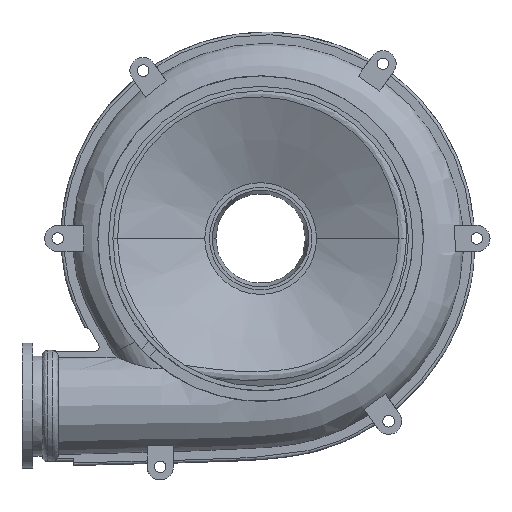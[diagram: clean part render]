
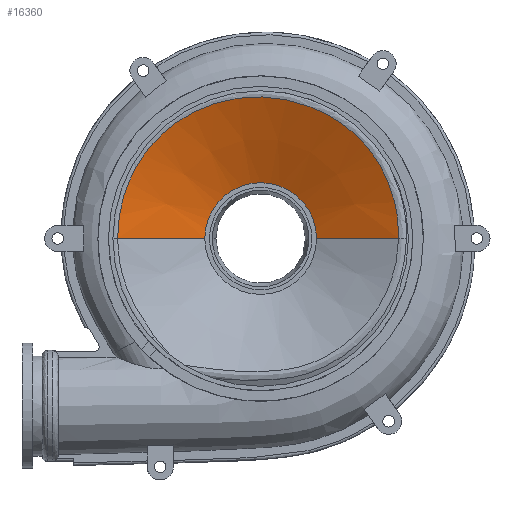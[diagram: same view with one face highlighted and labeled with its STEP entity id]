
A CAD part, front view. The second image highlights one B-rep face of the part: STEP entity #16360.
In plain terms, the highlighted conical face has half-angle 65.739 degrees and reference radius 19.01 mm.
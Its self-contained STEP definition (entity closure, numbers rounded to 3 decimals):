
#4383=CARTESIAN_POINT('',(-27.261,-4.302,
0.));
#4384=CARTESIAN_POINT('',(-27.263,-4.302,
-0.776));
#4385=CARTESIAN_POINT('',(-27.2,-4.3,
-2.253));
#4386=CARTESIAN_POINT('',(-26.968,-4.296,
-4.218));
#4387=CARTESIAN_POINT('',(-26.639,-4.292,
-5.979));
#4388=CARTESIAN_POINT('',(-26.239,-4.287,
-7.574));
#4389=CARTESIAN_POINT('',(-25.79,-4.281,
-9.014));
#4390=CARTESIAN_POINT('',(-25.317,-4.276,
-10.294));
#4391=CARTESIAN_POINT('',(-24.837,-4.271,
-11.427));
#4392=CARTESIAN_POINT('',(-24.359,-4.266,
-12.434));
#4393=CARTESIAN_POINT('',(-23.887,-4.262,
-13.333));
#4394=CARTESIAN_POINT('',(-23.422,-4.259,
-14.149));
#4395=CARTESIAN_POINT('',(-22.963,-4.256,
-14.891));
#4396=CARTESIAN_POINT('',(-22.501,-4.253,
-15.59));
#4397=CARTESIAN_POINT('',(-21.998,-4.252,
-16.299));
#4398=CARTESIAN_POINT('',(-21.453,-4.251,
-17.012));
#4399=CARTESIAN_POINT('',(-20.89,-4.251,
-17.698));
#4400=CARTESIAN_POINT('',(-20.309,-4.253,
-18.357));
#4401=CARTESIAN_POINT('',(-19.703,-4.255,
-19.));
#4402=CARTESIAN_POINT('',(-19.072,-4.257,
-19.625));
#4403=CARTESIAN_POINT('',(-18.421,-4.261,
-20.228));
#4404=CARTESIAN_POINT('',(-17.758,-4.264,
-20.802));
#4405=CARTESIAN_POINT('',(-17.056,-4.268,
-21.371));
#4406=CARTESIAN_POINT('',(-16.237,-4.273,
-21.988));
#4407=CARTESIAN_POINT('',(-15.268,-4.28,
-22.656));
#4408=CARTESIAN_POINT('',(-14.219,-4.287,
-23.309));
#4409=CARTESIAN_POINT('',(-13.128,-4.296,
-23.919));
#4410=CARTESIAN_POINT('',(-11.97,-4.306,
-24.495));
#4411=CARTESIAN_POINT('',(-10.729,-4.318,
-25.036));
#4412=CARTESIAN_POINT('',(-9.419,-4.331,
-25.528));
#4413=CARTESIAN_POINT('',(-8.055,-4.345,
-25.959));
#4414=CARTESIAN_POINT('',(-6.656,-4.359,
-26.32));
#4415=CARTESIAN_POINT('',(-5.237,-4.373,
-26.606));
#4416=CARTESIAN_POINT('',(-3.802,-4.388,
-26.816));
#4417=CARTESIAN_POINT('',(-2.34,-4.403,
-26.95));
#4418=CARTESIAN_POINT('',(-0.9,-4.417,
-27.003));
#4419=CARTESIAN_POINT('',(0.497,-4.432,
-26.982));
#4420=CARTESIAN_POINT('',(1.95,-4.446,
-26.885));
#4421=CARTESIAN_POINT('',(3.558,-4.462,
-26.688));
#4422=CARTESIAN_POINT('',(5.337,-4.478,
-26.36));
#4423=CARTESIAN_POINT('',(7.329,-4.493,
-25.846));
#4424=CARTESIAN_POINT('',(9.304,-4.505,
-25.172));
#4425=CARTESIAN_POINT('',(11.063,-4.513,
-24.427));
#4426=CARTESIAN_POINT('',(12.638,-4.517,
-23.637));
#4427=CARTESIAN_POINT('',(14.045,-4.519,
-22.819));
#4428=CARTESIAN_POINT('',(15.289,-4.52,
-22.));
#4429=CARTESIAN_POINT('',(16.371,-4.521,
-21.202));
#4430=CARTESIAN_POINT('',(17.311,-4.521,
-20.437));
#4431=CARTESIAN_POINT('',(18.136,-4.522,
-19.704));
#4432=CARTESIAN_POINT('',(18.868,-4.524,
-18.997));
#4433=CARTESIAN_POINT('',(19.525,-4.526,
-18.313));
#4434=CARTESIAN_POINT('',(20.107,-4.529,
-17.661));
#4435=CARTESIAN_POINT('',(20.61,-4.533,
-17.058));
#4436=CARTESIAN_POINT('',(21.048,-4.537,
-16.5));
#4437=CARTESIAN_POINT('',(21.442,-4.541,
-15.968));
#4438=CARTESIAN_POINT('',(21.814,-4.546,
-15.437));
#4439=CARTESIAN_POINT('',(22.172,-4.552,
-14.895));
#4440=CARTESIAN_POINT('',(22.516,-4.558,
-14.343));
#4441=CARTESIAN_POINT('',(22.844,-4.565,
-13.784));
#4442=CARTESIAN_POINT('',(23.159,-4.573,
-13.215));
#4443=CARTESIAN_POINT('',(23.466,-4.581,
-12.626));
#4444=CARTESIAN_POINT('',(23.773,-4.59,
-11.994));
#4445=CARTESIAN_POINT('',(24.088,-4.599,
-11.299));
#4446=CARTESIAN_POINT('',(24.414,-4.611,
-10.516));
#4447=CARTESIAN_POINT('',(24.746,-4.623,
-9.633));
#4448=CARTESIAN_POINT('',(25.08,-4.637,
-8.638));
#4449=CARTESIAN_POINT('',(25.399,-4.653,
-7.533));
#4450=CARTESIAN_POINT('',(25.689,-4.669,
-6.336));
#4451=CARTESIAN_POINT('',(25.944,-4.685,
-5.016));
#4452=CARTESIAN_POINT('',(26.149,-4.703,
-3.544));
#4453=CARTESIAN_POINT('',(26.283,-4.721,
-1.897));
#4454=CARTESIAN_POINT('',(26.303,-4.734,
-0.654));
#4455=CARTESIAN_POINT('',(26.288,-4.741,
0.));
#4607=CARTESIAN_POINT('',(-27.261,-4.302,
0.));
#4612=DIRECTION('',(-0.912,0.411,0.));
#4613=VECTOR('',#4612,18.225);
#4614=CARTESIAN_POINT('',(-10.646,-11.791,0.));
#4615=LINE('',#4614,#4613);
#4619=DIRECTION('',(0.912,0.411,0.));
#4620=VECTOR('',#4619,17.158);
#4621=CARTESIAN_POINT('',(10.646,-11.791,0.));
#4622=LINE('',#4621,#4620);
#4642=CARTESIAN_POINT('',(0.,-11.791,0.));
#4643=DIRECTION('',(0.,1.,0.));
#4644=DIRECTION('',(1.,0.,0.));
#4645=AXIS2_PLACEMENT_3D('',#4642,#4643,#4644);
#5275=CARTESIAN_POINT('',(10.646,-11.791,0.));
#5276=CARTESIAN_POINT('',(-10.646,-11.791,0.));
#5277=VERTEX_POINT('',#5275);
#5278=VERTEX_POINT('',#5276);
#5314=VERTEX_POINT('',#4607);
#5316=VERTEX_POINT('',#4455);
#16346=CARTESIAN_POINT('',(0.,-8.021,0.));
#16347=DIRECTION('',(0.,1.,0.));
#16348=DIRECTION('',(-1.,0.,0.));
#16349=AXIS2_PLACEMENT_3D('',#16346,#16347,#16348);
#16350=CONICAL_SURFACE('',#16349,19.01,65.739);
#16351=ORIENTED_EDGE('',*,*,#16333,.T.);
#16353=ORIENTED_EDGE('',*,*,#16352,.F.);
#16355=ORIENTED_EDGE('',*,*,#16354,.T.);
#16357=ORIENTED_EDGE('',*,*,#16356,.T.);
#16358=EDGE_LOOP('',(#16351,#16353,#16355,#16357));
#16359=FACE_OUTER_BOUND('',#16358,.F.);
#16360=ADVANCED_FACE('',(#16359),#16350,.F.);
#4456=B_SPLINE_CURVE_WITH_KNOTS('',3,(#4383,#4384,#4385,#4386,#4387,#4388,#4389,
#4390,#4391,#4392,#4393,#4394,#4395,#4396,#4397,#4398,#4399,#4400,#4401,#4402,
#4403,#4404,#4405,#4406,#4407,#4408,#4409,#4410,#4411,#4412,#4413,#4414,#4415,
#4416,#4417,#4418,#4419,#4420,#4421,#4422,#4423,#4424,#4425,#4426,#4427,#4428,
#4429,#4430,#4431,#4432,#4433,#4434,#4435,#4436,#4437,#4438,#4439,#4440,#4441,
#4442,#4443,#4444,#4445,#4446,#4447,#4448,#4449,#4450,#4451,#4452,#4453,#4454,
#4455),.UNSPECIFIED.,.F.,.F.,(4,1,1,1,1,1,1,1,1,1,1,1,1,1,1,1,1,1,1,1,1,1,1,1,1,
1,1,1,1,1,1,1,1,1,1,1,1,1,1,1,1,1,1,1,1,1,1,1,1,1,1,1,1,1,1,1,1,1,1,1,1,1,1,1,1,
1,1,1,1,1,4),(0.,0.014,0.029,0.043,
0.057,0.071,0.086,0.1,0.114,
0.129,0.143,0.157,0.171,
0.186,0.2,0.214,0.229,0.243,
0.257,0.271,0.286,0.3,0.314,
0.329,0.343,0.357,0.371,
0.386,0.4,0.414,0.429,0.443,
0.457,0.471,0.486,0.5,0.514,
0.529,0.543,0.557,0.571,
0.586,0.6,0.614,0.629,0.643,
0.657,0.671,0.686,0.7,0.714,
0.729,0.743,0.757,0.771,
0.786,0.8,0.814,0.829,0.843,
0.857,0.871,0.886,0.9,0.914,
0.929,0.943,0.957,0.971,
0.986,1.),.UNSPECIFIED.);
#4646=CIRCLE('',#4645,10.646);
#16333=EDGE_CURVE('',#5314,#5316,#4456,.T.);
#16352=EDGE_CURVE('',#5277,#5316,#4622,.T.);
#16354=EDGE_CURVE('',#5277,#5278,#4646,.T.);
#16356=EDGE_CURVE('',#5278,#5314,#4615,.T.);
